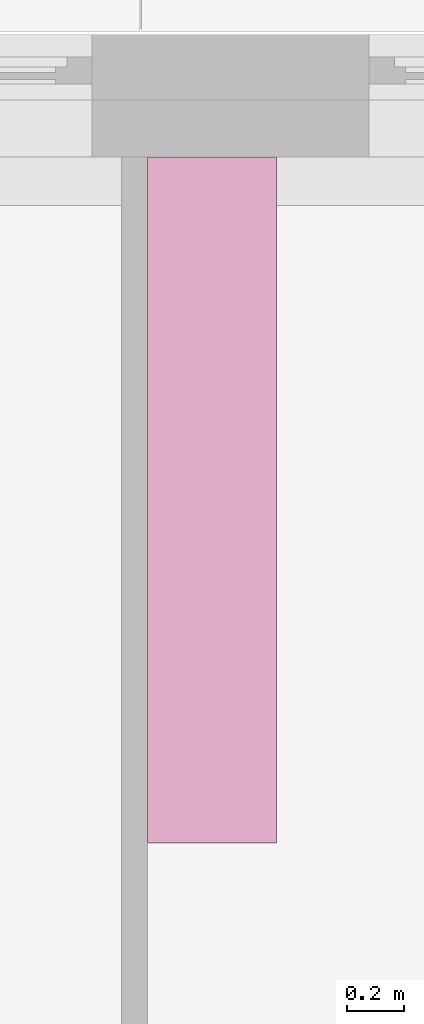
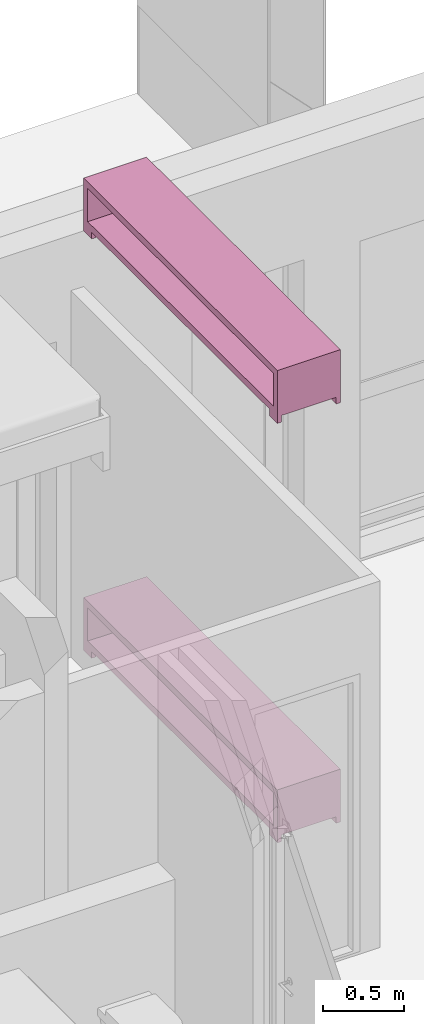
# One storey, part 81 of 125: 2 furnishings.
"""IFC2X3 building model written with IfcOpenShell, lengths in millimetres."""

from ifc_helpers import new_model, entity, si_unit, converted_unit, direction, frame, frame_2d, origin, origin_2d_with_axis, place, context, subcontext, project, spatial, polyline, rectangle, outline, extrude, source, transform, mapped, material, type_object, type_shapes, element, save


model = new_model("IFC2X3")

# Units and contexts
model_context = context("Model", 3, precision=0.01, world=origin(), true_north=direction((6.123233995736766e-17, 1.0)))
plan_context = context("Plan", 3, precision=0.01, world=origin(), true_north=direction((6.123233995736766e-17, 1.0)))
body_context = subcontext(model_context, "Body", "Model", "MODEL_VIEW")
ifc_project = project(units=[si_unit("LENGTHUNIT", "METRE", prefix="MILLI"), converted_unit("PLANEANGLEUNIT", "DEGREE", entity("IfcPlaneAngleMeasure", 0.017453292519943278), si_unit("PLANEANGLEUNIT", "RADIAN"), dimensions=[0, 0, 0, 0, 0, 0, 0]), si_unit("AREAUNIT", "SQUARE_METRE")], contexts=[model_context, plan_context])

# Site, building, storey, space
site_placement = place(None, origin())
site = spatial("IfcSite", under=ifc_project, at=site_placement, Name="Default", CompositionType="ELEMENT")
building_placement = place(site_placement, origin())
building = spatial("IfcBuilding", under=site, at=building_placement, CompositionType="ELEMENT")
storey_placement = place(building_placement, frame((0.0, 0.0, 3125.0)))
storey = spatial("IfcBuildingStorey", under=building, at=storey_placement, Name="2K", CompositionType="ELEMENT", Elevation=3125.0)
space_placement = place(storey_placement, origin())
space = spatial("IfcSpace", under=storey, at=space_placement, Name="2-2.2", CompositionType="ELEMENT", InteriorOrExteriorSpace="INTERNAL")

# Furnishings
ifc_material = material(Name="<Unnamed>")
furniture_type = type_object("IfcFurnitureType", Name="HR_Furniture_TV-stand_Generic_v2016-05-13:Default", AssemblyPlace="NOTDEFINED", material=ifc_material)
shared_shape = source(origin(), body_context, "Body", "SweptSolid", [
    extrude(rectangle(XDim=99.99999999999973, YDim=29.999999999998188, at=origin_2d_with_axis()), frame((1150.0, 15.0, 0.0), z_axis=(0.0, 0.0, 1.0), x_axis=(-1.0, 0.0, 0.0)), (0.0, 0.0, 1.0), 49.99999999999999),
    extrude(rectangle(XDim=30.000000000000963, YDim=99.99999999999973, at=frame_2d((-3.375077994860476e-14, 0.0), x_axis=(1.0, 0.0))), frame((1150.0, 435.0, 0.0), z_axis=(0.0, 0.0, 1.0), x_axis=(0.0, 1.0, 0.0)), (0.0, 0.0, 1.0), 49.99999999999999),
    extrude(rectangle(XDim=30.000000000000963, YDim=99.99999999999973, at=frame_2d((-3.375077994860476e-14, 0.0), x_axis=(1.0, 0.0))), frame((-1150.0, 435.0, 0.0), z_axis=(0.0, 0.0, 1.0), x_axis=(0.0, 1.0, 0.0)), (0.0, 0.0, 1.0), 49.99999999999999),
    extrude(rectangle(XDim=99.99999999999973, YDim=29.999999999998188, at=origin_2d_with_axis()), frame((-1150.0, 15.0, 0.0), z_axis=(0.0, 0.0, 1.0), x_axis=(-1.0, 0.0, 0.0)), (0.0, 0.0, 1.0), 49.99999999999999),
    extrude(outline(polyline([(-175.0, -1200.0), (175.0, -1200.0), (175.0, 1200.0), (-175.0, 1200.0), (-175.0, -1200.0)]), holes=[polyline([(-125.0, -1150.0), (-125.0, 1150.0), (125.0, 1150.0), (125.0, -1150.0), (-125.0, -1150.0)])]), frame((0.0, 0.0, 225.0), z_axis=(0.0, 1.0, 0.0), x_axis=(0.0, 0.0, -1.0)), (0.0, 0.0, 1.0), 449.9999999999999),
])
type_shapes(furniture_type, [shared_shape])
for number, where, z_axis, x_axis in (
    (1, (6650.0, 14200.0, 0.0), (0.0, 0.0, 1.0), (0.0, -1.0, 0.0)),
    (2, (6650.0, 14200.0, 3170.0), (0.0, 0.0, 1.0), (0.0, -1.0, 0.0)),
):
    element("IfcFurnishingElement", number, at=place(space_placement, frame(where, z_axis=z_axis, x_axis=x_axis)), inside=space, type_object=furniture_type, material=ifc_material, Name="HR_Furniture_TV-stand_Generic_v2016-05-13:Default", ObjectType="HR_Furniture_TV-stand_Generic_v2016-05-13:Default", context=body_context, shape_type="MappedRepresentation", body=[
        mapped(shared_shape, transform((0.0, 0.0, 0.0), scale=1.0)),
    ])

save(model, "model.ifc")
